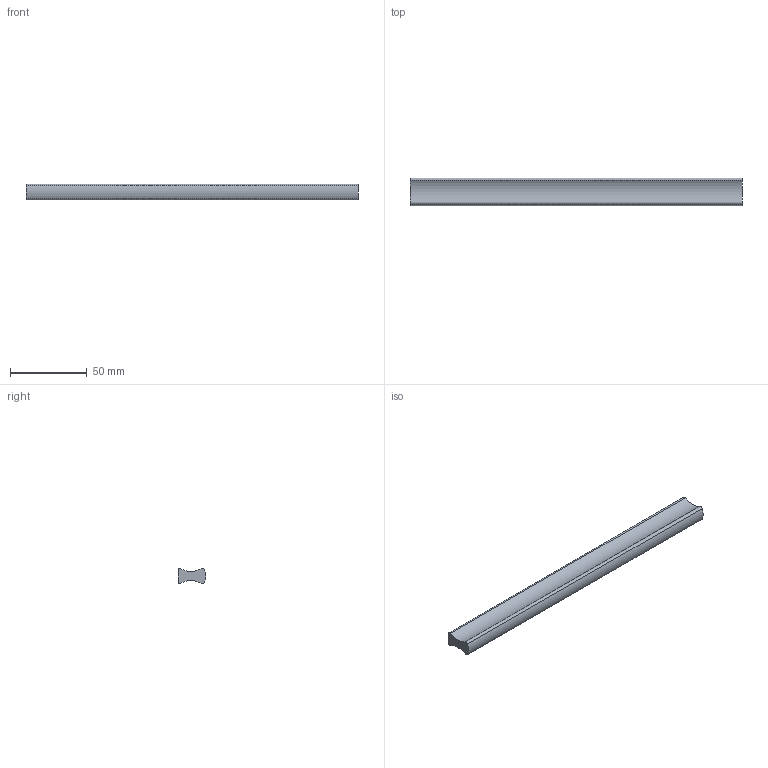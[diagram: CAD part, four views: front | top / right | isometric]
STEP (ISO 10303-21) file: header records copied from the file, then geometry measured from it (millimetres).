
FILE_DESCRIPTION( ( 'STEP AP214' ), '1' );
FILE_NAME( 'C:/Users/kulkarni/Desktop/Apurva/2015/Prodecor_2016/Cadfiles/kervo/9190438.stp', ' ', ( ' ' ), ( ' ' ), 'PSStep 15.0.47', 'PARTsolutions', ' ' );
FILE_SCHEMA( ( 'AUTOMOTIVE_DESIGN { 1 0 10303 214 1 1 1 1 }' ) );
Length unit declared in the file: millimetre
Products named in the file (1): _
Bounding box: 216 x 17.96 x 10 mm (x, y, z)
Volume: 29150.6 mm3; surface area: 12337 mm2
Topology: 1 solids, 1 shells, 18 faces, 36 edges, 24 vertices
Faces by surface type: cylinder 11, plane 7
Full cylindrical faces by diameter (mm): 4 x4
Entity records: 622 total; most frequent: DIRECTION 92, CARTESIAN_POINT 75, ORIENTED_EDGE 64, AXIS2_PLACEMENT_3D 41, EDGE_CURVE 32, EDGE_LOOP 26, VERTEX_POINT 24, FACE_OUTER_BOUND 22
